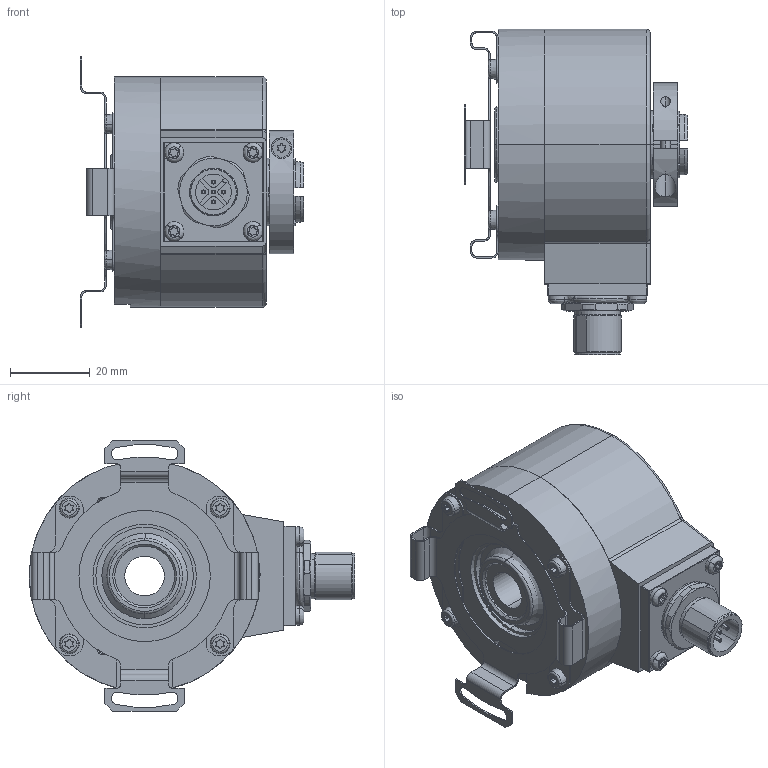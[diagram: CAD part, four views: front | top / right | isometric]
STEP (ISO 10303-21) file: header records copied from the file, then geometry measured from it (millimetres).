
FILE_DESCRIPTION (( 'STEP AP203' ), '1' );
FILE_NAME ('K58I.OXX.XXXXX.XC22510.6XRC3.step', '2025-12-08T12:11:51', ( '' ), ( '' ), 'SwSTEP 2.0', 'SolidWorks 2021', '' );
FILE_SCHEMA (( 'CONFIG_CONTROL_DESIGN' ));
Length unit declared in the file: millimetre
Products named in the file (1): K58I.OXX.XXXXX.XC22510.6XRC3
Bounding box: 56.09 x 81.8 x 68 mm (x, y, z)
Surface area: 41479.2 mm2 (no closed solid volume)
Topology: 0 solids, 14 shells, 751 faces, 1870 edges, 1171 vertices
Faces by surface type: cylinder 363, plane 271, cone 76, bspline 24, torus 17
Entity records: 24332 total; most frequent: CARTESIAN_POINT 6052, DIRECTION 4045, ORIENTED_EDGE 3696, EDGE_CURVE 1856, AXIS2_PLACEMENT_3D 1586, VERTEX_POINT 1171, LINE 873, VECTOR 873
